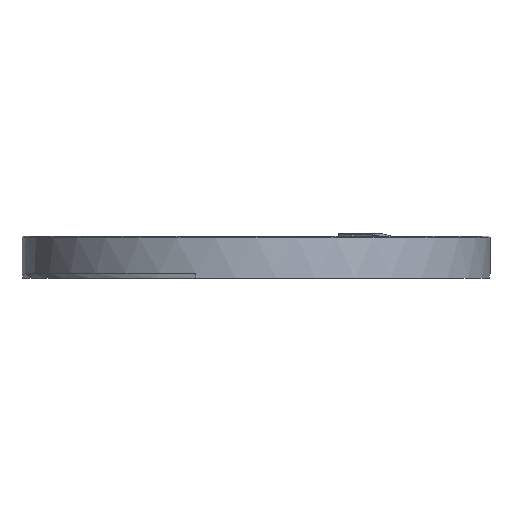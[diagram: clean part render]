
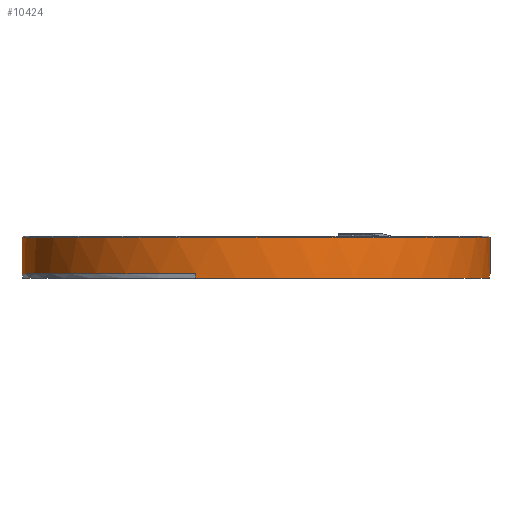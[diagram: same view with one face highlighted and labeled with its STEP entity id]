
A CAD part, left-side view. The second image highlights one B-rep face of the part: STEP entity #10424.
In plain terms, the highlighted cylindrical face has radius 100 mm (diameter 200 mm), a partial arc.
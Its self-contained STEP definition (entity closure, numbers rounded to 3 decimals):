
#383=CARTESIAN_POINT('',(0.,0.,-16.));
#384=DIRECTION('',(0.,0.,-1.));
#385=DIRECTION('',(0.966,-0.259,0.));
#386=AXIS2_PLACEMENT_3D('',#383,#384,#385);
#2825=CARTESIAN_POINT('',(0.,0.,1.5));
#2826=DIRECTION('',(0.,0.,1.));
#2827=DIRECTION('',(0.,1.,0.));
#2828=AXIS2_PLACEMENT_3D('',#2825,#2826,#2827);
#2839=CARTESIAN_POINT('',(0.,0.,-14.));
#2840=DIRECTION('',(0.,0.,-1.));
#2841=DIRECTION('',(0.966,-0.259,0.));
#2842=AXIS2_PLACEMENT_3D('',#2839,#2840,#2841);
#2906=DIRECTION('',(0.,0.,-1.));
#2907=VECTOR('',#2906,15.5);
#2908=CARTESIAN_POINT('',(0.,-100.,1.5));
#2909=LINE('',#2908,#2907);
#2910=DIRECTION('',(0.,0.,1.));
#2911=VECTOR('',#2910,2.);
#2912=CARTESIAN_POINT('',(96.593,-25.882,-16.));
#2913=LINE('',#2912,#2911);
#2914=DIRECTION('',(0.,0.,-1.));
#2915=VECTOR('',#2914,2.);
#2916=CARTESIAN_POINT('',(-96.593,25.882,-14.));
#2917=LINE('',#2916,#2915);
#2918=CARTESIAN_POINT('',(0.,0.,-14.));
#2919=DIRECTION('',(0.,0.,-1.));
#2920=DIRECTION('',(-0.966,0.259,0.));
#2921=AXIS2_PLACEMENT_3D('',#2918,#2919,#2920);
#2923=DIRECTION('',(0.,0.,1.));
#2924=VECTOR('',#2923,15.5);
#2925=CARTESIAN_POINT('',(0.,100.,-14.));
#2926=LINE('',#2925,#2924);
#4980=CARTESIAN_POINT('',(0.,-100.,1.5));
#4981=CARTESIAN_POINT('',(0.,100.,1.5));
#4982=VERTEX_POINT('',#4980);
#4983=VERTEX_POINT('',#4981);
#5077=CARTESIAN_POINT('',(-96.593,25.882,-16.));
#5078=CARTESIAN_POINT('',(96.593,-25.882,-16.));
#5079=VERTEX_POINT('',#5077);
#5080=VERTEX_POINT('',#5078);
#6029=CARTESIAN_POINT('',(96.593,-25.882,-14.));
#6030=CARTESIAN_POINT('',(0.,-100.,-14.));
#6031=VERTEX_POINT('',#6029);
#6032=VERTEX_POINT('',#6030);
#6033=CARTESIAN_POINT('',(-96.593,25.882,-14.));
#6034=CARTESIAN_POINT('',(0.,100.,-14.));
#6035=VERTEX_POINT('',#6033);
#6036=VERTEX_POINT('',#6034);
#10409=CARTESIAN_POINT('',(0.,0.,0.7));
#10410=DIRECTION('',(0.,0.,-1.));
#10411=DIRECTION('',(0.,-1.,0.));
#10412=AXIS2_PLACEMENT_3D('',#10409,#10410,#10411);
#10413=CYLINDRICAL_SURFACE('',#10412,100.);
#10414=ORIENTED_EDGE('',*,*,#10393,.T.);
#10415=ORIENTED_EDGE('',*,*,#10391,.F.);
#10416=ORIENTED_EDGE('',*,*,#10389,.F.);
#10417=ORIENTED_EDGE('',*,*,#6654,.T.);
#10418=ORIENTED_EDGE('',*,*,#10386,.F.);
#10419=ORIENTED_EDGE('',*,*,#10384,.T.);
#10420=ORIENTED_EDGE('',*,*,#10382,.T.);
#10421=ORIENTED_EDGE('',*,*,#10356,.T.);
#10422=EDGE_LOOP('',(#10414,#10415,#10416,#10417,#10418,#10419,#10420,#10421));
#10423=FACE_OUTER_BOUND('',#10422,.F.);
#10424=ADVANCED_FACE('',(#10423),#10413,.T.);
#387=CIRCLE('',#386,100.);
#2829=CIRCLE('',#2828,100.);
#2843=CIRCLE('',#2842,100.);
#2922=CIRCLE('',#2921,100.);
#6654=EDGE_CURVE('',#5080,#5079,#387,.T.);
#10356=EDGE_CURVE('',#4983,#4982,#2829,.T.);
#10382=EDGE_CURVE('',#6036,#4983,#2926,.T.);
#10384=EDGE_CURVE('',#6035,#6036,#2922,.T.);
#10386=EDGE_CURVE('',#6035,#5079,#2917,.T.);
#10389=EDGE_CURVE('',#5080,#6031,#2913,.T.);
#10391=EDGE_CURVE('',#6031,#6032,#2843,.T.);
#10393=EDGE_CURVE('',#4982,#6032,#2909,.T.);
